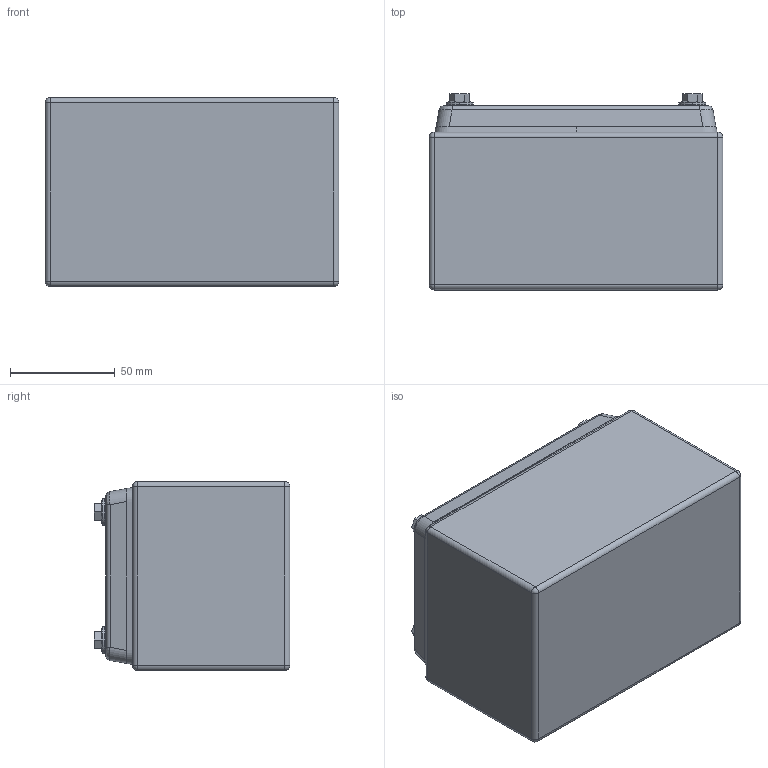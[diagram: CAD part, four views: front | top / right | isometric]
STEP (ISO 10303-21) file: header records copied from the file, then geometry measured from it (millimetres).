
FILE_DESCRIPTION (( 'STEP AP203' ), '1' );
FILE_NAME ('DEH02-316A.STEP', '2021-02-23T13:54:02', ( '' ), ( '' ), 'SwSTEP 2.0', 'SolidWorks 2020', '' );
FILE_SCHEMA (( 'CONFIG_CONTROL_DESIGN' ));
Length unit declared in the file: millimetre
Products named in the file (1): DEH02-316A
Bounding box: 140 x 93.3 x 90 mm (x, y, z)
Volume: 121610.8 mm3; surface area: 161606.1 mm2
Topology: 20 solids, 20 shells, 465 faces, 1123 edges, 724 vertices
Faces by surface type: plane 240, cylinder 162, bspline 27, cone 20, sphere 16
Entity records: 16066 total; most frequent: CARTESIAN_POINT 5024, DIRECTION 2296, ORIENTED_EDGE 2214, EDGE_CURVE 1107, AXIS2_PLACEMENT_3D 812, VERTEX_POINT 724, VECTOR 672, LINE 672
